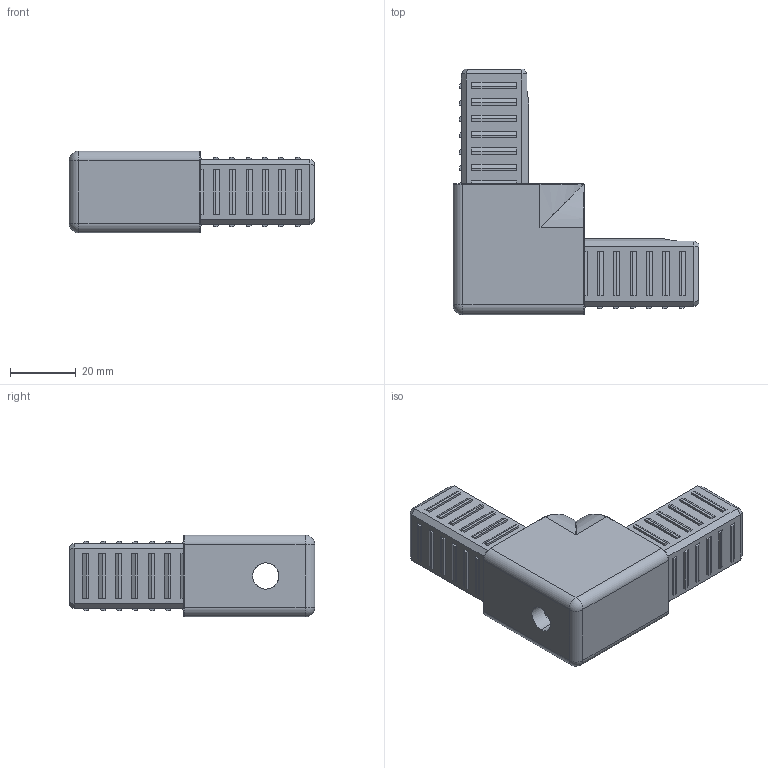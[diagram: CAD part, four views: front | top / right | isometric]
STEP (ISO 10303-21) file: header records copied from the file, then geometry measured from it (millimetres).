
FILE_DESCRIPTION (( 'STEP AP214' ), '1' );
FILE_NAME ('013.025.134.STEP', '2022-02-17T14:12:04', ( '' ), ( '' ), 'SwSTEP 2.0', 'SolidWorks 2018', '' );
FILE_SCHEMA (( 'AUTOMOTIVE_DESIGN' ));
Length unit declared in the file: millimetre
Products named in the file (1): 013.025.134
Bounding box: 75 x 75 x 25 mm (x, y, z)
Volume: 38883.5 mm3; surface area: 26765.3 mm2
Topology: 1 solids, 1 shells, 388 faces, 1022 edges, 654 vertices
Faces by surface type: plane 299, cylinder 48, torus 19, bspline 16, cone 4, sphere 2
Entity records: 14673 total; most frequent: CARTESIAN_POINT 3344, ORIENTED_EDGE 2032, DIRECTION 1848, EDGE_CURVE 1016, VECTOR 814, LINE 814, VERTEX_POINT 654, AXIS2_PLACEMENT_3D 517
